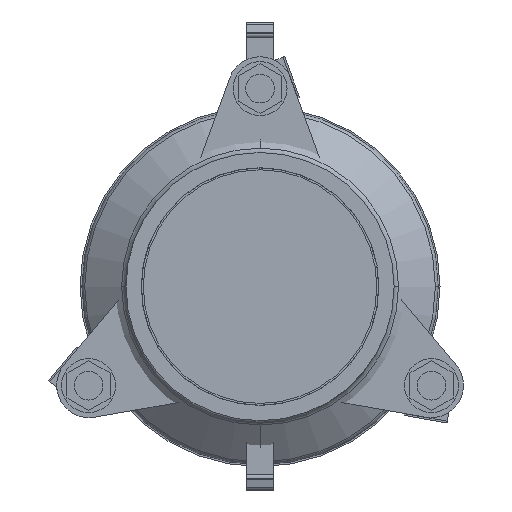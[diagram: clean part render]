
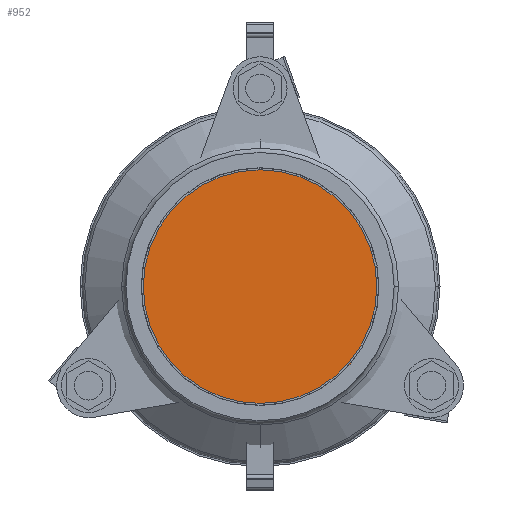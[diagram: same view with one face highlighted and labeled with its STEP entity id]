
A CAD part, left-side view. The second image highlights one B-rep face of the part: STEP entity #952.
In plain terms, the highlighted planar face has unit normal (-1, 0, 0).
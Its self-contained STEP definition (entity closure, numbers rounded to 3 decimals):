
#952=ADVANCED_FACE('',(#1887),#1888,.T.);
#1887=FACE_OUTER_BOUND('',#3096,.T.);
#1888=PLANE('',#3097);
#3096=EDGE_LOOP('',(#4702,#4703));
#3097=AXIS2_PLACEMENT_3D('',#4704,#4705,#4706);
#4702=ORIENTED_EDGE('',*,*,#6859,.T.);
#4703=ORIENTED_EDGE('',*,*,#6921,.T.);
#4704=CARTESIAN_POINT('',(-97.0,0.0,0.0));
#4705=DIRECTION('',(-1.0,0.0,0.));
#4706=DIRECTION('',(0.,0.0,1.0));
#6859=EDGE_CURVE('',#8202,#8204,#8206,.T.);
#6921=EDGE_CURVE('',#8204,#8202,#8297,.T.);
#8202=VERTEX_POINT('',#9920);
#8204=VERTEX_POINT('',#9923);
#8206=CIRCLE('',#9926,74.5);
#8297=CIRCLE('',#10051,74.5);
#9920=CARTESIAN_POINT('',(-97.0,0.0,-74.5));
#9923=CARTESIAN_POINT('',(-97.0,0.,74.5));
#9926=AXIS2_PLACEMENT_3D('',#11514,#11515,#11516);
#10051=AXIS2_PLACEMENT_3D('',#11572,#11573,#11574);
#11514=CARTESIAN_POINT('',(-97.0,0.0,0.0));
#11515=DIRECTION('',(-1.0,0.0,0.));
#11516=DIRECTION('',(0.,0.0,-1.0));
#11572=CARTESIAN_POINT('',(-97.0,0.0,0.0));
#11573=DIRECTION('',(-1.0,0.0,0.));
#11574=DIRECTION('',(0.,0.0,-1.0));
